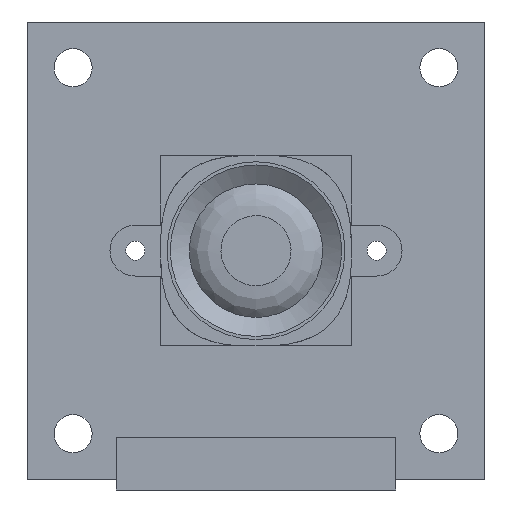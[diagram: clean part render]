
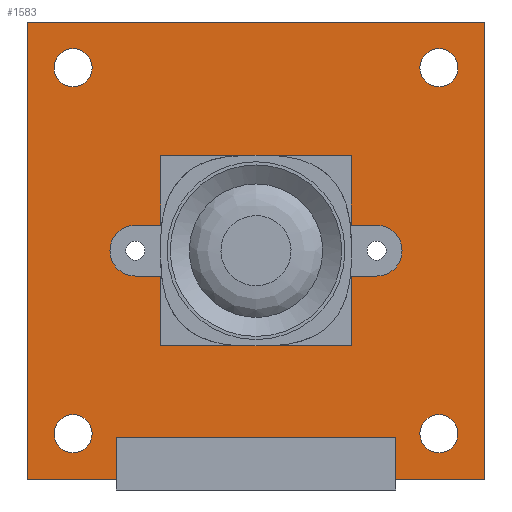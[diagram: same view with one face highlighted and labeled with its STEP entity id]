
A CAD part, front view. The second image highlights one B-rep face of the part: STEP entity #1583.
In plain terms, the highlighted planar face has unit normal (0, -1, 0).
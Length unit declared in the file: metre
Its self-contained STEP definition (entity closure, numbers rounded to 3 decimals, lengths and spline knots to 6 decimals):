
#77=CIRCLE('',#1787,0.002);
#78=CIRCLE('',#1788,0.002);
#79=CIRCLE('',#1789,0.0015);
#80=CIRCLE('',#1790,0.0015);
#81=CIRCLE('',#1791,0.0015);
#82=CIRCLE('',#1792,0.0015);
#195=ORIENTED_EDGE('',*,*,#673,.F.);
#196=ORIENTED_EDGE('',*,*,#674,.T.);
#197=ORIENTED_EDGE('',*,*,#675,.T.);
#198=ORIENTED_EDGE('',*,*,#676,.T.);
#199=ORIENTED_EDGE('',*,*,#677,.F.);
#200=ORIENTED_EDGE('',*,*,#678,.F.);
#201=ORIENTED_EDGE('',*,*,#679,.T.);
#202=ORIENTED_EDGE('',*,*,#680,.F.);
#203=ORIENTED_EDGE('',*,*,#681,.T.);
#204=ORIENTED_EDGE('',*,*,#682,.T.);
#205=ORIENTED_EDGE('',*,*,#683,.T.);
#206=ORIENTED_EDGE('',*,*,#684,.F.);
#207=ORIENTED_EDGE('',*,*,#685,.T.);
#208=ORIENTED_EDGE('',*,*,#686,.T.);
#209=ORIENTED_EDGE('',*,*,#687,.F.);
#210=ORIENTED_EDGE('',*,*,#688,.F.);
#211=ORIENTED_EDGE('',*,*,#689,.F.);
#212=ORIENTED_EDGE('',*,*,#690,.T.);
#213=ORIENTED_EDGE('',*,*,#691,.F.);
#214=ORIENTED_EDGE('',*,*,#692,.F.);
#215=ORIENTED_EDGE('',*,*,#693,.F.);
#216=ORIENTED_EDGE('',*,*,#694,.F.);
#217=ORIENTED_EDGE('',*,*,#695,.T.);
#218=ORIENTED_EDGE('',*,*,#696,.T.);
#673=EDGE_CURVE('',#912,#913,#1087,.T.);
#674=EDGE_CURVE('',#912,#914,#1088,.T.);
#675=EDGE_CURVE('',#914,#915,#1089,.T.);
#676=EDGE_CURVE('',#915,#916,#1090,.T.);
#677=EDGE_CURVE('',#917,#916,#77,.T.);
#678=EDGE_CURVE('',#918,#917,#1091,.T.);
#679=EDGE_CURVE('',#918,#919,#1092,.T.);
#680=EDGE_CURVE('',#920,#919,#1093,.T.);
#681=EDGE_CURVE('',#920,#921,#1094,.T.);
#682=EDGE_CURVE('',#921,#922,#1095,.T.);
#683=EDGE_CURVE('',#922,#923,#78,.F.);
#684=EDGE_CURVE('',#913,#923,#1096,.T.);
#685=EDGE_CURVE('',#924,#924,#79,.T.);
#686=EDGE_CURVE('',#925,#925,#80,.T.);
#687=EDGE_CURVE('',#926,#926,#81,.T.);
#688=EDGE_CURVE('',#927,#927,#82,.T.);
#689=EDGE_CURVE('',#928,#929,#1097,.T.);
#690=EDGE_CURVE('',#928,#930,#1098,.T.);
#691=EDGE_CURVE('',#931,#930,#1099,.T.);
#692=EDGE_CURVE('',#932,#931,#1100,.T.);
#693=EDGE_CURVE('',#933,#932,#1101,.T.);
#694=EDGE_CURVE('',#934,#933,#1102,.T.);
#695=EDGE_CURVE('',#934,#935,#1103,.T.);
#696=EDGE_CURVE('',#935,#929,#1104,.T.);
#912=VERTEX_POINT('',#2484);
#913=VERTEX_POINT('',#2485);
#914=VERTEX_POINT('',#2487);
#915=VERTEX_POINT('',#2489);
#916=VERTEX_POINT('',#2491);
#917=VERTEX_POINT('',#2493);
#918=VERTEX_POINT('',#2495);
#919=VERTEX_POINT('',#2497);
#920=VERTEX_POINT('',#2499);
#921=VERTEX_POINT('',#2501);
#922=VERTEX_POINT('',#2503);
#923=VERTEX_POINT('',#2505);
#924=VERTEX_POINT('',#2508);
#925=VERTEX_POINT('',#2510);
#926=VERTEX_POINT('',#2512);
#927=VERTEX_POINT('',#2514);
#928=VERTEX_POINT('',#2516);
#929=VERTEX_POINT('',#2517);
#930=VERTEX_POINT('',#2519);
#931=VERTEX_POINT('',#2521);
#932=VERTEX_POINT('',#2523);
#933=VERTEX_POINT('',#2525);
#934=VERTEX_POINT('',#2527);
#935=VERTEX_POINT('',#2529);
#1087=LINE('',#2483,#1197);
#1088=LINE('',#2486,#1198);
#1089=LINE('',#2488,#1199);
#1090=LINE('',#2490,#1200);
#1091=LINE('',#2494,#1201);
#1092=LINE('',#2496,#1202);
#1093=LINE('',#2498,#1203);
#1094=LINE('',#2500,#1204);
#1095=LINE('',#2502,#1205);
#1096=LINE('',#2506,#1206);
#1097=LINE('',#2515,#1207);
#1098=LINE('',#2518,#1208);
#1099=LINE('',#2520,#1209);
#1100=LINE('',#2522,#1210);
#1101=LINE('',#2524,#1211);
#1102=LINE('',#2526,#1212);
#1103=LINE('',#2528,#1213);
#1104=LINE('',#2530,#1214);
#1197=VECTOR('',#1988,1.);
#1198=VECTOR('',#1989,1.);
#1199=VECTOR('',#1990,1.);
#1200=VECTOR('',#1991,1.);
#1201=VECTOR('',#1994,1.);
#1202=VECTOR('',#1995,1.);
#1203=VECTOR('',#1996,1.);
#1204=VECTOR('',#1997,1.);
#1205=VECTOR('',#1998,1.);
#1206=VECTOR('',#2001,1.);
#1207=VECTOR('',#2010,1.);
#1208=VECTOR('',#2011,1.);
#1209=VECTOR('',#2012,1.);
#1210=VECTOR('',#2013,1.);
#1211=VECTOR('',#2014,1.);
#1212=VECTOR('',#2015,1.);
#1213=VECTOR('',#2016,1.);
#1214=VECTOR('',#2017,1.);
#1301=EDGE_LOOP('',(#195,#196,#197,#198,#199,#200,#201,#202,#203,#204,#205,
#206));
#1302=EDGE_LOOP('',(#207));
#1303=EDGE_LOOP('',(#208));
#1304=EDGE_LOOP('',(#209));
#1305=EDGE_LOOP('',(#210));
#1306=EDGE_LOOP('',(#211,#212,#213,#214,#215,#216,#217,#218));
#1415=FACE_BOUND('',#1301,.T.);
#1416=FACE_BOUND('',#1302,.T.);
#1417=FACE_BOUND('',#1303,.T.);
#1418=FACE_BOUND('',#1304,.T.);
#1419=FACE_BOUND('',#1305,.T.);
#1420=FACE_BOUND('',#1306,.T.);
#1528=PLANE('',#1786);
#1583=ADVANCED_FACE('',(#1415,#1416,#1417,#1418,#1419,#1420),#1528,.T.);
#1786=AXIS2_PLACEMENT_3D('',#2482,#1986,#1987);
#1787=AXIS2_PLACEMENT_3D('',#2492,#1992,#1993);
#1788=AXIS2_PLACEMENT_3D('',#2504,#1999,#2000);
#1789=AXIS2_PLACEMENT_3D('',#2507,#2002,#2003);
#1790=AXIS2_PLACEMENT_3D('',#2509,#2004,#2005);
#1791=AXIS2_PLACEMENT_3D('',#2511,#2006,#2007);
#1792=AXIS2_PLACEMENT_3D('',#2513,#2008,#2009);
#1986=DIRECTION('',(0.,-1.,0.));
#1987=DIRECTION('',(1.,0.,0.));
#1988=DIRECTION('',(0.,0.,-1.));
#1989=DIRECTION('',(1.,0.,0.));
#1990=DIRECTION('',(0.,0.,-1.));
#1991=DIRECTION('',(1.,0.,0.));
#1992=DIRECTION('',(0.,-1.,0.));
#1993=DIRECTION('',(0.,0.,-1.));
#1994=DIRECTION('',(1.,0.,0.));
#1995=DIRECTION('',(0.,0.,-1.));
#1996=DIRECTION('',(1.,0.,0.));
#1997=DIRECTION('',(0.,0.,1.));
#1998=DIRECTION('',(-1.,0.,0.));
#1999=DIRECTION('',(0.,-1.,0.));
#2000=DIRECTION('',(0.,0.,-1.));
#2001=DIRECTION('',(-1.,0.,0.));
#2002=DIRECTION('',(0.,1.,0.));
#2003=DIRECTION('',(0.,0.,-1.));
#2004=DIRECTION('',(0.,1.,0.));
#2005=DIRECTION('',(0.,0.,-1.));
#2006=DIRECTION('',(0.,-1.,0.));
#2007=DIRECTION('',(0.,0.,-1.));
#2008=DIRECTION('',(0.,-1.,0.));
#2009=DIRECTION('',(0.,0.,-1.));
#2010=DIRECTION('',(-1.,0.,0.));
#2011=DIRECTION('',(0.,0.,1.));
#2012=DIRECTION('',(-1.,0.,0.));
#2013=DIRECTION('',(0.,0.,1.));
#2014=DIRECTION('',(-1.,0.,0.));
#2015=DIRECTION('',(0.,0.,-1.));
#2016=DIRECTION('',(-1.,0.,0.));
#2017=DIRECTION('',(0.,0.,-1.));
#2482=CARTESIAN_POINT('',(0.,-0.0015,0.));
#2483=CARTESIAN_POINT('',(-0.0075,-0.0015,0.));
#2484=CARTESIAN_POINT('',(-0.0075,-0.0015,0.0075));
#2485=CARTESIAN_POINT('',(-0.0075,-0.0015,0.002));
#2486=CARTESIAN_POINT('',(0.,-0.0015,0.0075));
#2487=CARTESIAN_POINT('',(0.0075,-0.0015,0.0075));
#2488=CARTESIAN_POINT('',(0.0075,-0.0015,0.));
#2489=CARTESIAN_POINT('',(0.0075,-0.0015,0.002));
#2490=CARTESIAN_POINT('',(0.,-0.0015,0.002));
#2491=CARTESIAN_POINT('',(0.0095,-0.0015,0.002));
#2492=CARTESIAN_POINT('',(0.0095,-0.0015,0.));
#2493=CARTESIAN_POINT('',(0.0095,-0.0015,-0.002));
#2494=CARTESIAN_POINT('',(0.,-0.0015,-0.002));
#2495=CARTESIAN_POINT('',(0.0075,-0.0015,-0.002));
#2496=CARTESIAN_POINT('',(0.0075,-0.0015,0.));
#2497=CARTESIAN_POINT('',(0.0075,-0.0015,-0.0075));
#2498=CARTESIAN_POINT('',(0.,-0.0015,-0.0075));
#2499=CARTESIAN_POINT('',(-0.0075,-0.0015,-0.0075));
#2500=CARTESIAN_POINT('',(-0.0075,-0.0015,0.));
#2501=CARTESIAN_POINT('',(-0.0075,-0.0015,-0.002));
#2502=CARTESIAN_POINT('',(0.,-0.0015,-0.002));
#2503=CARTESIAN_POINT('',(-0.0095,-0.0015,-0.002));
#2504=CARTESIAN_POINT('',(-0.0095,-0.0015,0.));
#2505=CARTESIAN_POINT('',(-0.0095,-0.0015,0.002));
#2506=CARTESIAN_POINT('',(0.,-0.0015,0.002));
#2507=CARTESIAN_POINT('',(-0.0144,-0.0015,-0.0144));
#2508=CARTESIAN_POINT('',(-0.0144,-0.0015,-0.0159));
#2509=CARTESIAN_POINT('',(0.0144,-0.0015,-0.0144));
#2510=CARTESIAN_POINT('',(0.0144,-0.0015,-0.0159));
#2511=CARTESIAN_POINT('',(-0.0144,-0.0015,0.0144));
#2512=CARTESIAN_POINT('',(-0.0144,-0.0015,0.0129));
#2513=CARTESIAN_POINT('',(0.0144,-0.0015,0.0144));
#2514=CARTESIAN_POINT('',(0.0144,-0.0015,0.0129));
#2515=CARTESIAN_POINT('',(0.,-0.0015,-0.018));
#2516=CARTESIAN_POINT('',(-0.011,-0.0015,-0.018));
#2517=CARTESIAN_POINT('',(-0.018,-0.0015,-0.018));
#2518=CARTESIAN_POINT('',(-0.011,-0.0015,-0.01677));
#2519=CARTESIAN_POINT('',(-0.011,-0.0015,-0.0147));
#2520=CARTESIAN_POINT('',(0.,-0.0015,-0.0147));
#2521=CARTESIAN_POINT('',(0.011,-0.0015,-0.0147));
#2522=CARTESIAN_POINT('',(0.011,-0.0015,-0.01677));
#2523=CARTESIAN_POINT('',(0.011,-0.0015,-0.018));
#2524=CARTESIAN_POINT('',(0.,-0.0015,-0.018));
#2525=CARTESIAN_POINT('',(0.018,-0.0015,-0.018));
#2526=CARTESIAN_POINT('',(0.018,-0.0015,0.));
#2527=CARTESIAN_POINT('',(0.018,-0.0015,0.018));
#2528=CARTESIAN_POINT('',(0.,-0.0015,0.018));
#2529=CARTESIAN_POINT('',(-0.018,-0.0015,0.018));
#2530=CARTESIAN_POINT('',(-0.018,-0.0015,0.));
